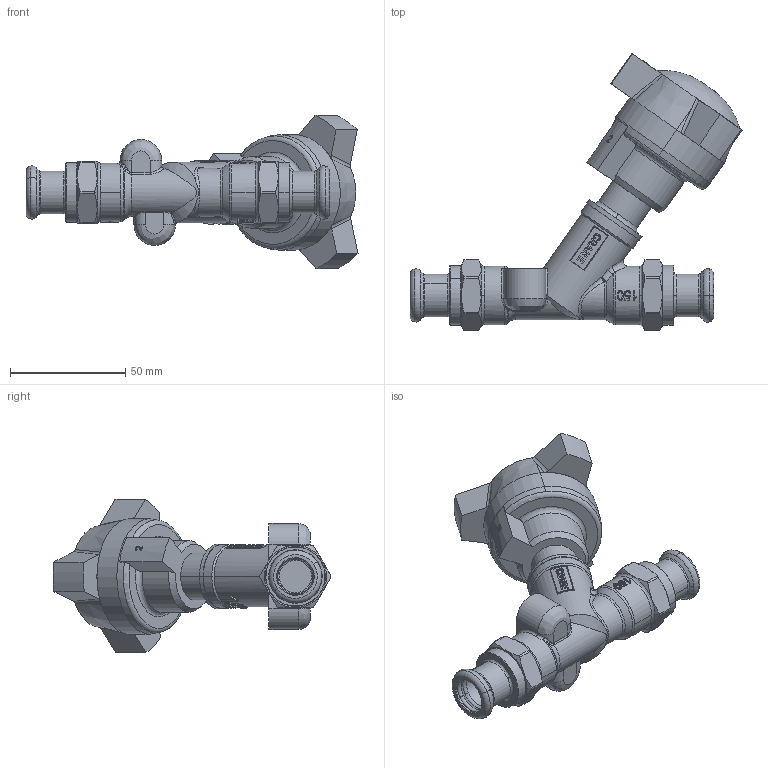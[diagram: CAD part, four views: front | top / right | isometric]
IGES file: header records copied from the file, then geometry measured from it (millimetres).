
Global section: file name: No Iges File Name specified; native system: AutoDesk Inventor R12.0; preprocessor: AutoDesk Inventor Iges Exporter R12.0; date: 20110823.154832; units: millimetre
Bounding box: 143.89 x 120.36 x 66.44 mm (x, y, z)
Volume: 163372.3 mm3; surface area: 31995 mm2
Topology: 1 solids, 3 shells, 805 faces, 2175 edges, 1430 vertices
Faces by surface type: bspline 348, plane 301, cylinder 73, cone 38, revolution 26, torus 19
